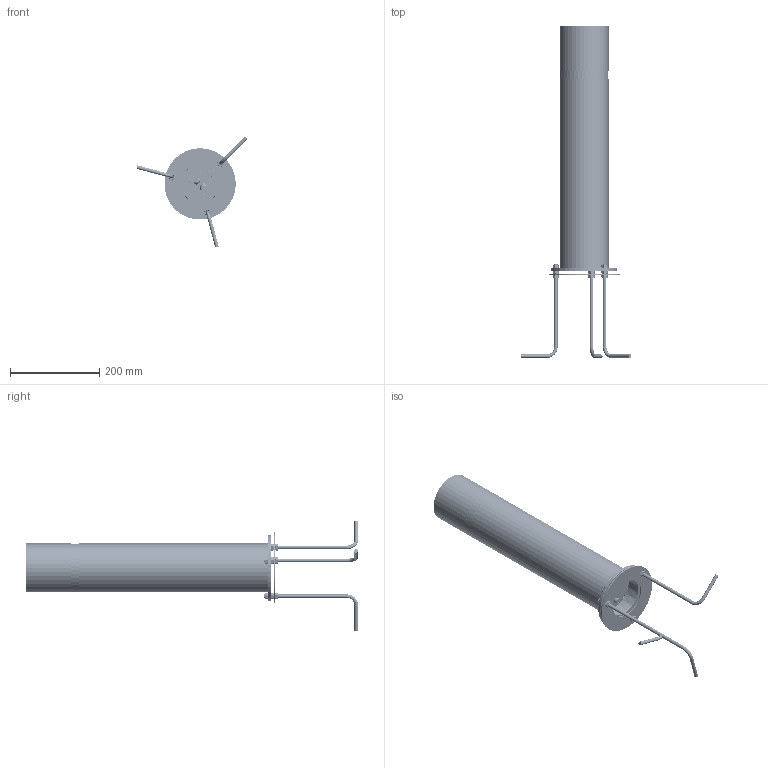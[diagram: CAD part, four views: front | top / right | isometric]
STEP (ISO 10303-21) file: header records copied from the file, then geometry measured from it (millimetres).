
FILE_DESCRIPTION((''),'2;1');
FILE_NAME('9EE-560_ASM','2024-09-20T',('C028'),(''),'CREO PARAMETRIC BY PTC INC, 2014190','CREO PARAMETRIC BY PTC INC, 2014190','');
FILE_SCHEMA(('CONFIG_CONTROL_DESIGN'));
Products named in the file (30): 9AD-07_300_1_35; XIN_XIA_GAI_A7_770; ZHONG_GAI_A8_165; XIN_TOU_GUANG_ZHAO_M_15; 10W_QU_DONG_6; XIN_SHANG_GAI_140; LED_DENG_BAN_15; XIN_FANG_SHUI_QUAN_54; 9EE_TOU_GUANG_ZHAO_A-9_81; SHANG_GAI_ZU_ASM_134_ASM; 9AB-04DUDINGZUOFANGSHUIQUAN_1_6; 9AB-03DUDINGZUOHOUGAI_1_8; PAD_312_1_1; FANGUANGSAI-1_312_1_1; FANGSHUISAI_312_1_1; PG9_ASM_315_ASM_1_ASM_2_ASM; M4_L100_4; LI_BAN; LI_BAN-24; 12-ZHUANGJIEGGAI_3; GUANZI_1; DICHA14A_ASM_1_ASM; 9AB_FA_LAN_PAN_56; M8-25; 9EE_A11_ASM_583_ASM; 9AB-11_4__ANY; M8LUOMU_3__ANY; 9AB-10_5__ANY; 9ABDIZUO_AF5_ASM_333_ASM_1_ANY_ASM; 9EE-560_ASM
Assembly tree (47 placements, depth 4):
  9EE-560_ASM
    9EE_A11_ASM_583_ASM
      9AD-07_300_1_35
      XIN_XIA_GAI_A7_770
      ZHONG_GAI_A8_165  x2
      XIN_TOU_GUANG_ZHAO_M_15
      10W_QU_DONG_6
      SHANG_GAI_ZU_ASM_134_ASM
        XIN_SHANG_GAI_140
        LED_DENG_BAN_15
        XIN_FANG_SHUI_QUAN_54
        9EE_TOU_GUANG_ZHAO_A-9_81
      9AB-04DUDINGZUOFANGSHUIQUAN_1_6
      9AB-03DUDINGZUOHOUGAI_1_8
      PG9_ASM_315_ASM_1_ASM_2_ASM  x2
        PAD_312_1_1
        FANGUANGSAI-1_312_1_1
        FANGSHUISAI_312_1_1
      M4_L100_4  x4
      LI_BAN
      LI_BAN-24
      DICHA14A_ASM_1_ASM
        12-ZHUANGJIEGGAI_3  x2
        GUANZI_1
      9AB_FA_LAN_PAN_56
      M8-25  x3
    9ABDIZUO_AF5_ASM_333_ASM_1_ANY_ASM
      9AB-11_4__ANY  x3
      M8LUOMU_3__ANY  x9
      9AB-10_5__ANY
Bounding box: 248.96 x 745.35 x 248.96 mm (x, y, z)
Volume: 1383326.9 mm3; surface area: 859354.9 mm2
Topology: 44 solids, 52 shells, 5452 faces, 16406 edges, 9622 vertices
Faces by surface type: plane 1923, sphere 1584, cylinder 972, cone 476, bspline 256, torus 241
Entity records: 160547 total; most frequent: CARTESIAN_POINT 59446, ORIENTED_EDGE 22756, DIRECTION 19204, EDGE_CURVE 11378, AXIS2_PLACEMENT_3D 7905, VERTEX_POINT 7317, EDGE_LOOP 4439, B_SPLINE_CURVE_WITH_KNOTS 4258
